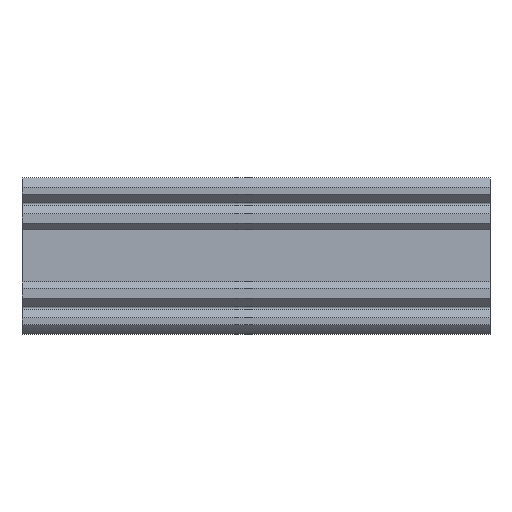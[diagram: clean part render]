
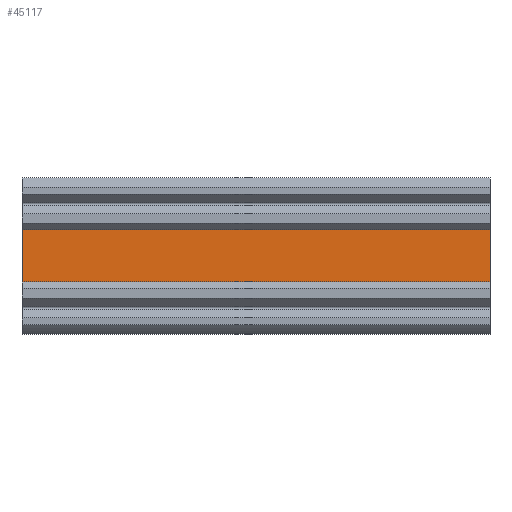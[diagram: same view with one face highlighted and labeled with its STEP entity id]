
A CAD part, left-side view. The second image highlights one B-rep face of the part: STEP entity #45117.
In plain terms, the highlighted planar face has unit normal (-1, 0, 0).
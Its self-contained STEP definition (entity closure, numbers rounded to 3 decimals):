
#2120 = LINE ( 'NONE', #22452, #20565 ) ;
#2360 = FACE_OUTER_BOUND ( 'NONE', #24863, .T. ) ;
#3521 = VECTOR ( 'NONE', #11405, 1000. ) ;
#6202 = ORIENTED_EDGE ( 'NONE', *, *, #24598, .T. ) ;
#7094 = DIRECTION ( 'NONE',  ( 0., 1., 0. ) ) ;
#9740 = CARTESIAN_POINT ( 'NONE',  ( -8., -36., -5.525 ) ) ;
#10526 = VERTEX_POINT ( 'NONE', #26774 ) ;
#11405 = DIRECTION ( 'NONE',  ( 0., 0., -1. ) ) ;
#14170 = LINE ( 'NONE', #15466, #3521 ) ;
#15035 = VERTEX_POINT ( 'NONE', #9740 ) ;
#15313 = ORIENTED_EDGE ( 'NONE', *, *, #23700, .F. ) ;
#15466 = CARTESIAN_POINT ( 'NONE',  ( -8., -36., 5.525 ) ) ;
#19325 = PLANE ( 'NONE',  #46410 ) ;
#20005 = VERTEX_POINT ( 'NONE', #43193 ) ;
#20294 = EDGE_CURVE ( 'NONE', #15035, #35555, #49183, .T. ) ;
#20565 = VECTOR ( 'NONE', #52116, 1000. ) ;
#22452 = CARTESIAN_POINT ( 'NONE',  ( -8., -36., 5.525 ) ) ;
#23700 = EDGE_CURVE ( 'NONE', #10526, #15035, #14170, .T. ) ;
#24598 = EDGE_CURVE ( 'NONE', #20005, #35555, #39151, .T. ) ;
#24863 = EDGE_LOOP ( 'NONE', ( #6202, #25495, #15313, #39587 ) ) ;
#25495 = ORIENTED_EDGE ( 'NONE', *, *, #20294, .F. ) ;
#25745 = DIRECTION ( 'NONE',  ( 0., 0., -1. ) ) ;
#26774 = CARTESIAN_POINT ( 'NONE',  ( -8., -36., 5.525 ) ) ;
#30669 = VECTOR ( 'NONE', #7094, 1000. ) ;
#32105 = CARTESIAN_POINT ( 'NONE',  ( -8., -36., -5.525 ) ) ;
#32361 = CARTESIAN_POINT ( 'NONE',  ( -8., 36., -5.525 ) ) ;
#34477 = DIRECTION ( 'NONE',  ( 0., 0., -1. ) ) ;
#35555 = VERTEX_POINT ( 'NONE', #32361 ) ;
#37308 = EDGE_CURVE ( 'NONE', #10526, #20005, #2120, .T. ) ;
#38131 = CARTESIAN_POINT ( 'NONE',  ( -8., -36., 5.525 ) ) ;
#38378 = CARTESIAN_POINT ( 'NONE',  ( -8., 36., 5.525 ) ) ;
#39151 = LINE ( 'NONE', #38378, #43080 ) ;
#39587 = ORIENTED_EDGE ( 'NONE', *, *, #37308, .T. ) ;
#43080 = VECTOR ( 'NONE', #34477, 1000. ) ;
#43193 = CARTESIAN_POINT ( 'NONE',  ( -8., 36., 5.525 ) ) ;
#45117 = ADVANCED_FACE ( 'NONE', ( #2360 ), #19325, .F. ) ;
#46410 = AXIS2_PLACEMENT_3D ( 'NONE', #38131, #51013, #25745 ) ;
#49183 = LINE ( 'NONE', #32105, #30669 ) ;
#51013 = DIRECTION ( 'NONE',  ( 1., 0., 0. ) ) ;
#52116 = DIRECTION ( 'NONE',  ( 0., 1., 0. ) ) ;
